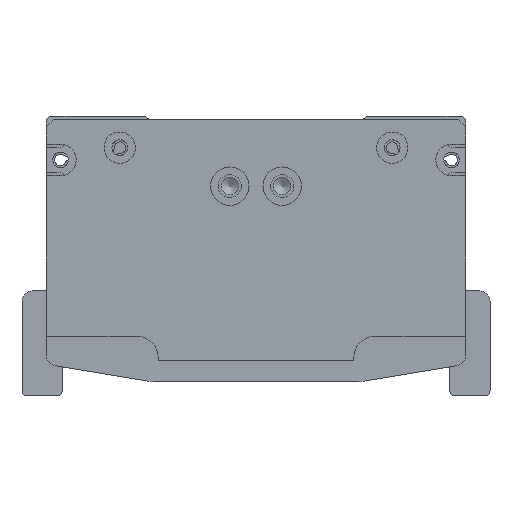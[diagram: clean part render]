
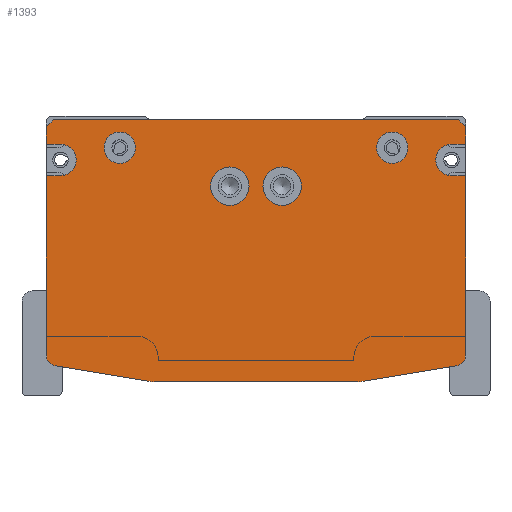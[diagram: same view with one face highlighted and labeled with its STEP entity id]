
A CAD part, front view. The second image highlights one B-rep face of the part: STEP entity #1393.
In plain terms, the highlighted planar face has unit normal (0, -1, 0).
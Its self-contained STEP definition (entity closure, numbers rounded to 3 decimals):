
#1393=ADVANCED_FACE('',(#2351,#2352,#2353,#2354,#2355),#1947,.F.);
#1947=PLANE('',#13962);
#2351=FACE_BOUND('',#3263,.T.);
#2352=FACE_BOUND('',#3264,.T.);
#2353=FACE_BOUND('',#3265,.T.);
#2354=FACE_BOUND('',#3266,.T.);
#2355=FACE_BOUND('',#3267,.T.);
#3263=EDGE_LOOP('',(#6426));
#3264=EDGE_LOOP('',(#6427));
#3265=EDGE_LOOP('',(#6428,#6429,#6430,#6431,#6432,#6433,#6434,#6435,#6436,
#6437,#6438,#6439,#6440,#6441,#6442,#6443,#6444,#6445,#6446,#6447));
#3266=EDGE_LOOP('',(#6448));
#3267=EDGE_LOOP('',(#6449));
#4187=CIRCLE('',#13863,5.5);
#4191=CIRCLE('',#13870,5.5);
#4194=CIRCLE('',#13876,4.5);
#4198=CIRCLE('',#13883,4.5);
#4205=CIRCLE('',#13901,4.5);
#4208=CIRCLE('',#13910,3.);
#4211=CIRCLE('',#13915,10.);
#4212=CIRCLE('',#13918,10.);
#4215=CIRCLE('',#13923,3.);
#4223=CIRCLE('',#13950,4.5);
#6426=ORIENTED_EDGE('',*,*,#10432,.T.);
#6427=ORIENTED_EDGE('',*,*,#10436,.T.);
#6428=ORIENTED_EDGE('',*,*,#10497,.T.);
#6429=ORIENTED_EDGE('',*,*,#10493,.F.);
#6430=ORIENTED_EDGE('',*,*,#10491,.F.);
#6431=ORIENTED_EDGE('',*,*,#10488,.F.);
#6432=ORIENTED_EDGE('',*,*,#10484,.T.);
#6433=ORIENTED_EDGE('',*,*,#10481,.T.);
#6434=ORIENTED_EDGE('',*,*,#10138,.F.);
#6435=ORIENTED_EDGE('',*,*,#10467,.T.);
#6436=ORIENTED_EDGE('',*,*,#10464,.T.);
#6437=ORIENTED_EDGE('',*,*,#10462,.F.);
#6438=ORIENTED_EDGE('',*,*,#10134,.F.);
#6439=ORIENTED_EDGE('',*,*,#10458,.T.);
#6440=ORIENTED_EDGE('',*,*,#10109,.F.);
#6441=ORIENTED_EDGE('',*,*,#10456,.T.);
#6442=ORIENTED_EDGE('',*,*,#9910,.F.);
#6443=ORIENTED_EDGE('',*,*,#10532,.T.);
#6444=ORIENTED_EDGE('',*,*,#10529,.T.);
#6445=ORIENTED_EDGE('',*,*,#10527,.F.);
#6446=ORIENTED_EDGE('',*,*,#9906,.F.);
#6447=ORIENTED_EDGE('',*,*,#10500,.T.);
#6448=ORIENTED_EDGE('',*,*,#10443,.F.);
#6449=ORIENTED_EDGE('',*,*,#10439,.F.);
#8544=VERTEX_POINT('',#19683);
#8545=VERTEX_POINT('',#19685);
#8548=VERTEX_POINT('',#19691);
#8549=VERTEX_POINT('',#19693);
#8652=VERTEX_POINT('',#20289);
#8653=VERTEX_POINT('',#20291);
#8668=VERTEX_POINT('',#20337);
#8669=VERTEX_POINT('',#20339);
#8672=VERTEX_POINT('',#20345);
#8673=VERTEX_POINT('',#20347);
#8872=VERTEX_POINT('',#21436);
#8876=VERTEX_POINT('',#21447);
#8879=VERTEX_POINT('',#21456);
#8882=VERTEX_POINT('',#21466);
#8890=VERTEX_POINT('',#21501);
#8892=VERTEX_POINT('',#21508);
#8903=VERTEX_POINT('',#21542);
#8905=VERTEX_POINT('',#21548);
#8908=VERTEX_POINT('',#21556);
#8910=VERTEX_POINT('',#21562);
#8911=VERTEX_POINT('',#21566);
#8914=VERTEX_POINT('',#21574);
#8926=VERTEX_POINT('',#21633);
#8928=VERTEX_POINT('',#21640);
#9906=EDGE_CURVE('',#8544,#8545,#11505,.T.);
#9910=EDGE_CURVE('',#8548,#8549,#11509,.T.);
#10109=EDGE_CURVE('',#8652,#8653,#11627,.T.);
#10134=EDGE_CURVE('',#8668,#8669,#11652,.T.);
#10138=EDGE_CURVE('',#8672,#8673,#11656,.T.);
#10432=EDGE_CURVE('',#8872,#8872,#4187,.T.);
#10436=EDGE_CURVE('',#8876,#8876,#4191,.T.);
#10439=EDGE_CURVE('',#8879,#8879,#4194,.T.);
#10443=EDGE_CURVE('',#8882,#8882,#4198,.T.);
#10456=EDGE_CURVE('',#8652,#8549,#11830,.T.);
#10458=EDGE_CURVE('',#8668,#8653,#11832,.T.);
#10462=EDGE_CURVE('',#8669,#8890,#11836,.T.);
#10464=EDGE_CURVE('',#8892,#8890,#4205,.T.);
#10467=EDGE_CURVE('',#8672,#8892,#11839,.T.);
#10481=EDGE_CURVE('',#8903,#8673,#4208,.T.);
#10484=EDGE_CURVE('',#8905,#8903,#11852,.T.);
#10488=EDGE_CURVE('',#8905,#8908,#4211,.T.);
#10491=EDGE_CURVE('',#8908,#8910,#11857,.T.);
#10493=EDGE_CURVE('',#8910,#8911,#4212,.T.);
#10497=EDGE_CURVE('',#8914,#8911,#11861,.T.);
#10500=EDGE_CURVE('',#8544,#8914,#4215,.T.);
#10527=EDGE_CURVE('',#8545,#8926,#11883,.T.);
#10529=EDGE_CURVE('',#8928,#8926,#4223,.T.);
#10532=EDGE_CURVE('',#8548,#8928,#11886,.T.);
#11505=LINE('',#19684,#12477);
#11509=LINE('',#19692,#12481);
#11627=LINE('',#20290,#12599);
#11652=LINE('',#20338,#12624);
#11656=LINE('',#20346,#12628);
#11830=LINE('',#21493,#12802);
#11832=LINE('',#21496,#12804);
#11836=LINE('',#21503,#12808);
#11839=LINE('',#21512,#12811);
#11852=LINE('',#21547,#12824);
#11857=LINE('',#21561,#12829);
#11861=LINE('',#21573,#12833);
#11883=LINE('',#21635,#12855);
#11886=LINE('',#21644,#12858);
#12477=VECTOR('',#15415,1.);
#12481=VECTOR('',#15419,1.);
#12599=VECTOR('',#15821,1.);
#12624=VECTOR('',#15860,1.);
#12628=VECTOR('',#15864,1.);
#12802=VECTOR('',#16624,1.);
#12804=VECTOR('',#16628,1.);
#12808=VECTOR('',#16634,1.);
#12811=VECTOR('',#16645,1.);
#12824=VECTOR('',#16678,1.);
#12829=VECTOR('',#16691,1.);
#12833=VECTOR('',#16703,1.);
#12855=VECTOR('',#16779,1.);
#12858=VECTOR('',#16790,1.);
#13863=AXIS2_PLACEMENT_3D('',#21435,#16549,#16550);
#13870=AXIS2_PLACEMENT_3D('',#21446,#16563,#16564);
#13876=AXIS2_PLACEMENT_3D('',#21455,#16575,#16576);
#13883=AXIS2_PLACEMENT_3D('',#21465,#16589,#16590);
#13901=AXIS2_PLACEMENT_3D('',#21507,#16639,#16640);
#13910=AXIS2_PLACEMENT_3D('',#21541,#16671,#16672);
#13915=AXIS2_PLACEMENT_3D('',#21555,#16685,#16686);
#13918=AXIS2_PLACEMENT_3D('',#21565,#16695,#16696);
#13923=AXIS2_PLACEMENT_3D('',#21578,#16709,#16710);
#13950=AXIS2_PLACEMENT_3D('',#21639,#16784,#16785);
#13962=AXIS2_PLACEMENT_3D('',#21661,#16815,#16816);
#15415=DIRECTION('',(0.,0.,1.));
#15419=DIRECTION('',(0.,0.,1.));
#15821=DIRECTION('',(1.,0.,0.));
#15860=DIRECTION('',(0.,0.,-1.));
#15864=DIRECTION('',(0.,0.,-1.));
#16549=DIRECTION('',(0.,1.,0.));
#16550=DIRECTION('',(1.,0.,0.));
#16563=DIRECTION('',(0.,1.,0.));
#16564=DIRECTION('',(1.,0.,0.));
#16575=DIRECTION('',(0.,-1.,0.));
#16576=DIRECTION('',(1.,0.,0.));
#16589=DIRECTION('',(0.,-1.,0.));
#16590=DIRECTION('',(1.,0.,0.));
#16624=DIRECTION('',(-0.707,0.,-0.707));
#16628=DIRECTION('',(-0.707,0.,0.707));
#16634=DIRECTION('',(-1.,0.,0.));
#16639=DIRECTION('',(0.,1.,0.));
#16640=DIRECTION('',(0.,0.,-1.));
#16645=DIRECTION('',(-1.,0.,0.));
#16671=DIRECTION('',(0.,-1.,0.));
#16672=DIRECTION('',(0.164,0.,-0.986));
#16678=DIRECTION('',(0.986,0.,0.164));
#16685=DIRECTION('',(0.,1.,0.));
#16686=DIRECTION('',(0.164,0.,-0.986));
#16691=DIRECTION('',(-1.,0.,0.));
#16695=DIRECTION('',(0.,1.,0.));
#16696=DIRECTION('',(0.,0.,-1.));
#16703=DIRECTION('',(0.986,0.,-0.164));
#16709=DIRECTION('',(0.,-1.,0.));
#16710=DIRECTION('',(-1.,0.,0.));
#16779=DIRECTION('',(1.,0.,0.));
#16784=DIRECTION('',(0.,1.,0.));
#16785=DIRECTION('',(0.,0.,1.));
#16790=DIRECTION('',(1.,0.,0.));
#16815=DIRECTION('',(0.,1.,0.));
#16816=DIRECTION('',(1.,0.,0.));
#19683=CARTESIAN_POINT('',(-60.,-12.,-69.459));
#19684=CARTESIAN_POINT('',(-60.,-12.,-69.459));
#19685=CARTESIAN_POINT('',(-60.,-12.,-18.));
#19691=CARTESIAN_POINT('',(-60.,-12.,-9.));
#19692=CARTESIAN_POINT('',(-60.,-12.,-9.));
#19693=CARTESIAN_POINT('',(-60.,-12.,-4.));
#20289=CARTESIAN_POINT('',(-58.,-12.,-2.));
#20290=CARTESIAN_POINT('',(-58.,-12.,-2.));
#20291=CARTESIAN_POINT('',(58.,-12.,-2.));
#20337=CARTESIAN_POINT('',(60.,-12.,-4.));
#20338=CARTESIAN_POINT('',(60.,-12.,-4.));
#20339=CARTESIAN_POINT('',(60.,-12.,-9.));
#20345=CARTESIAN_POINT('',(60.,-12.,-18.));
#20346=CARTESIAN_POINT('',(60.,-12.,-18.));
#20347=CARTESIAN_POINT('',(60.,-12.,-69.459));
#21435=CARTESIAN_POINT('',(7.5,-12.,-21.));
#21436=CARTESIAN_POINT('',(13.,-12.,-21.));
#21446=CARTESIAN_POINT('',(-7.5,-12.,-21.));
#21447=CARTESIAN_POINT('',(-2.,-12.,-21.));
#21455=CARTESIAN_POINT('',(-39.,-12.,-10.));
#21456=CARTESIAN_POINT('',(-34.5,-12.,-10.));
#21465=CARTESIAN_POINT('',(39.,-12.,-10.));
#21466=CARTESIAN_POINT('',(43.5,-12.,-10.));
#21493=CARTESIAN_POINT('',(-58.,-12.,-2.));
#21496=CARTESIAN_POINT('',(60.,-12.,-4.));
#21501=CARTESIAN_POINT('',(56.,-12.,-9.));
#21503=CARTESIAN_POINT('',(60.,-12.,-9.));
#21507=CARTESIAN_POINT('',(56.,-12.,-13.5));
#21508=CARTESIAN_POINT('',(56.,-12.,-18.));
#21512=CARTESIAN_POINT('',(60.,-12.,-18.));
#21541=CARTESIAN_POINT('',(57.,-12.,-69.459));
#21542=CARTESIAN_POINT('',(57.493,-12.,-72.418));
#21547=CARTESIAN_POINT('',(30.816,-12.,-76.864));
#21548=CARTESIAN_POINT('',(30.816,-12.,-76.864));
#21555=CARTESIAN_POINT('',(29.172,-12.,-67.));
#21556=CARTESIAN_POINT('',(29.172,-12.,-77.));
#21561=CARTESIAN_POINT('',(29.172,-12.,-77.));
#21562=CARTESIAN_POINT('',(-29.172,-12.,-77.));
#21565=CARTESIAN_POINT('',(-29.172,-12.,-67.));
#21566=CARTESIAN_POINT('',(-30.816,-12.,-76.864));
#21573=CARTESIAN_POINT('',(-57.493,-12.,-72.418));
#21574=CARTESIAN_POINT('',(-57.493,-12.,-72.418));
#21578=CARTESIAN_POINT('',(-57.,-12.,-69.459));
#21633=CARTESIAN_POINT('',(-56.,-12.,-18.));
#21635=CARTESIAN_POINT('',(-60.,-12.,-18.));
#21639=CARTESIAN_POINT('',(-56.,-12.,-13.5));
#21640=CARTESIAN_POINT('',(-56.,-12.,-9.));
#21644=CARTESIAN_POINT('',(-60.,-12.,-9.));
#21661=CARTESIAN_POINT('',(0.,-12.,-2.));
